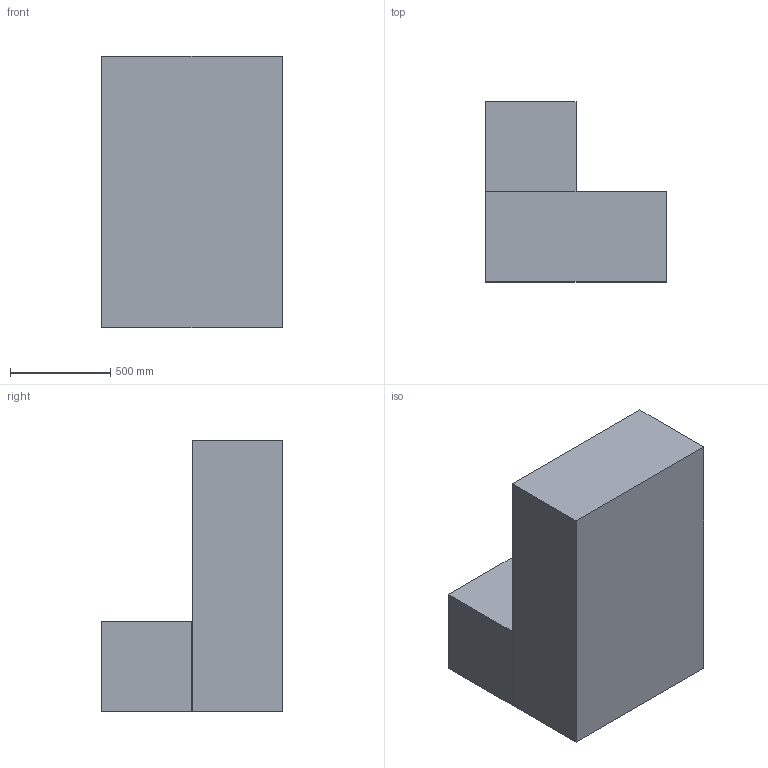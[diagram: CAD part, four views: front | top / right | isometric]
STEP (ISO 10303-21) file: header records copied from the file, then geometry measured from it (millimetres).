
FILE_DESCRIPTION (( 'STEP AP203' ), '1' );
FILE_NAME ('Type C Plus (LH).STEP', '2019-01-15T13:55:51', ( '' ), ( '' ), 'SwSTEP 2.0', 'SolidWorks 2019', '' );
FILE_SCHEMA (( 'CONFIG_CONTROL_DESIGN' ));
Length unit declared in the file: millimetre
Products named in the file (3): Extrabox Type E_Domy˜lna; Extrabox Type A_Domy˜lna; Type C Plus (LH)
Assembly tree (2 placements, depth 2):
  Type C Plus (LH)
    Extrabox Type E_Domy˜lna
    Extrabox Type A_Domy˜lna
Bounding box: 900 x 900 x 1350 mm (x, y, z)
Volume: 637875000 mm3; surface area: 5670000 mm2
Topology: 2 solids, 2 shells, 12 faces, 24 edges, 16 vertices
Faces by surface type: plane 12
Entity records: 613 total; most frequent: DIRECTION 58, CARTESIAN_POINT 57, ORIENTED_EDGE 48, PERSON_AND_ORGANIZATION 26, EDGE_CURVE 24, LINE 24, VECTOR 24, LOCAL_TIME 19
